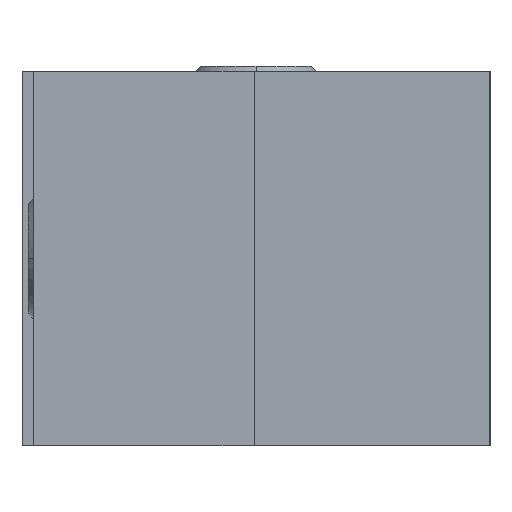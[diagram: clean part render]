
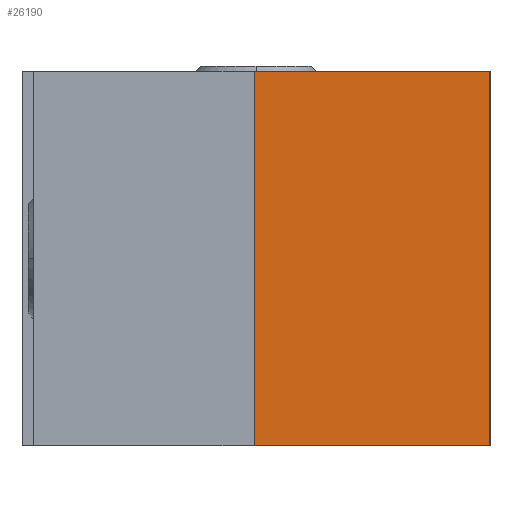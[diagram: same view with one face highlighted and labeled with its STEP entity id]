
A CAD part, left-side view. The second image highlights one B-rep face of the part: STEP entity #26190.
In plain terms, the highlighted planar face has unit normal (-1, 0, 0).
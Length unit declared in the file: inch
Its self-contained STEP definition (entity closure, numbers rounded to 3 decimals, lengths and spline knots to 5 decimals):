
#1433 = LINE ( 'NONE', #7432, #1434 ) ;
#1434 = VECTOR ( 'NONE', #7431, 39.37008 ) ;
#4614 = EDGE_CURVE ( 'NONE', #42157, #42178, #1433, .T. ) ;
#6118 = AXIS2_PLACEMENT_3D ( 'NONE', #34839, #34838, #34837 ) ;
#6538 = VERTEX_POINT ( 'NONE', #17911 ) ;
#7431 = DIRECTION ( 'NONE',  ( 0., -1., 0. ) ) ;
#7432 = CARTESIAN_POINT ( 'NONE',  ( 0., 0.63, 1. ) ) ;
#15768 = LINE ( 'NONE', #39537, #15769 ) ;
#15769 = VECTOR ( 'NONE', #39523, 39.37008 ) ;
#15794 = LINE ( 'NONE', #39048, #15796 ) ;
#15796 = VECTOR ( 'NONE', #39039, 39.37008 ) ;
#15797 = LINE ( 'NONE', #39025, #15798 ) ;
#15798 = VECTOR ( 'NONE', #39017, 39.37008 ) ;
#17911 = CARTESIAN_POINT ( 'NONE',  ( 0., 0., 0. ) ) ;
#18904 = ORIENTED_EDGE ( 'NONE', *, *, #29755, .T. ) ;
#18905 = ORIENTED_EDGE ( 'NONE', *, *, #29740, .F. ) ;
#18906 = ORIENTED_EDGE ( 'NONE', *, *, #4614, .F. ) ;
#18907 = ORIENTED_EDGE ( 'NONE', *, *, #29756, .T. ) ;
#26190 = ADVANCED_FACE ( 'NONE', ( #32565 ), #34840, .F. ) ;
#29740 = EDGE_CURVE ( 'NONE', #42178, #6538, #15768, .T. ) ;
#29755 = EDGE_CURVE ( 'NONE', #42173, #6538, #15794, .T. ) ;
#29756 = EDGE_CURVE ( 'NONE', #42157, #42173, #15797, .T. ) ;
#32565 = FACE_OUTER_BOUND ( 'NONE', #40717, .T. ) ;
#34837 = DIRECTION ( 'NONE',  ( 0., 1., 0. ) ) ;
#34838 = DIRECTION ( 'NONE',  ( 1., 0., 0. ) ) ;
#34839 = CARTESIAN_POINT ( 'NONE',  ( 0., 0.63, 1. ) ) ;
#34840 = PLANE ( 'NONE',  #6118 ) ;
#39017 = DIRECTION ( 'NONE',  ( 0., 0., -1. ) ) ;
#39025 = CARTESIAN_POINT ( 'NONE',  ( 0., 0.63, 1. ) ) ;
#39039 = DIRECTION ( 'NONE',  ( 0., -1., 0. ) ) ;
#39048 = CARTESIAN_POINT ( 'NONE',  ( 0., 0.63, 0. ) ) ;
#39523 = DIRECTION ( 'NONE',  ( 0., 0., -1. ) ) ;
#39537 = CARTESIAN_POINT ( 'NONE',  ( 0., 0., 1. ) ) ;
#40717 = EDGE_LOOP ( 'NONE', ( #18904, #18905, #18906, #18907 ) ) ;
#42157 = VERTEX_POINT ( 'NONE', #44580 ) ;
#42173 = VERTEX_POINT ( 'NONE', #44596 ) ;
#42178 = VERTEX_POINT ( 'NONE', #44601 ) ;
#44580 = CARTESIAN_POINT ( 'NONE',  ( 0., 0.63, 1. ) ) ;
#44596 = CARTESIAN_POINT ( 'NONE',  ( 0., 0.63, 0. ) ) ;
#44601 = CARTESIAN_POINT ( 'NONE',  ( 0., 0., 1. ) ) ;
